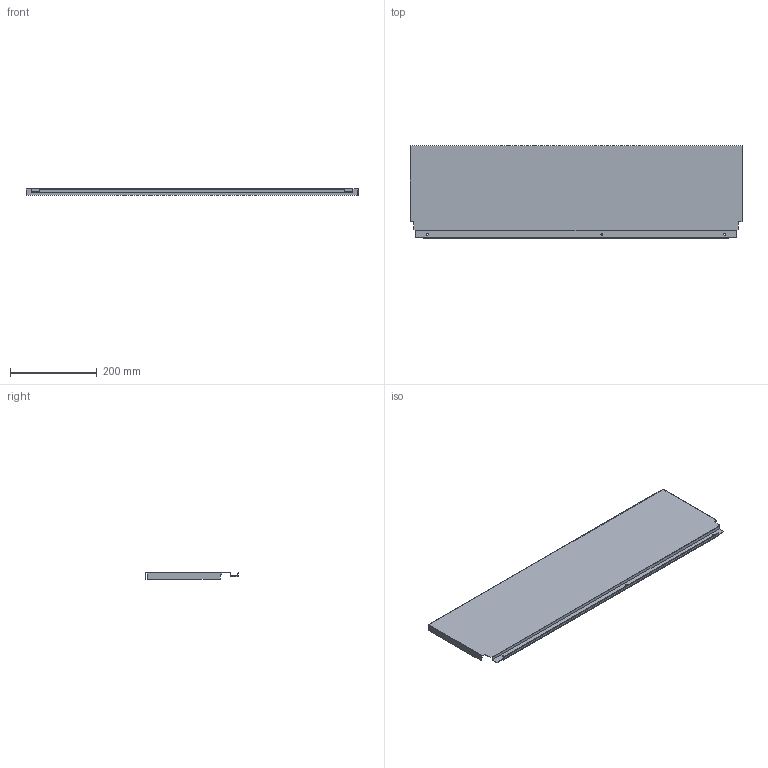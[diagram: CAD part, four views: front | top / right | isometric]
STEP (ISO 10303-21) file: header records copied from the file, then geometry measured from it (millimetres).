
FILE_DESCRIPTION (( 'STEP AP214' ), '1' );
FILE_NAME ('_DWD_XP Stahlrückwand_H214_KAB850_S16.step', '2010-07-08T13:02:51', ( 'grass' ), ( '' ), 'SwSTEP 2.0', 'SolidWorks 2010', '' );
FILE_SCHEMA (( 'AUTOMOTIVE_DESIGN' ));
Length unit declared in the file: millimetre
Products named in the file (1): _DWD_XP Stahlrückwand_H214_KAB850_S16
Bounding box: 767 x 214.58 x 16 mm (x, y, z)
Volume: 182199.1 mm3; surface area: 384133.5 mm2
Topology: 1 solids, 1 shells, 46 faces, 132 edges, 88 vertices
Faces by surface type: plane 40, cylinder 6
Entity records: 1534 total; most frequent: CARTESIAN_POINT 267, ORIENTED_EDGE 264, DIRECTION 238, EDGE_CURVE 132, VECTOR 120, LINE 120, VERTEX_POINT 88, AXIS2_PLACEMENT_3D 59
